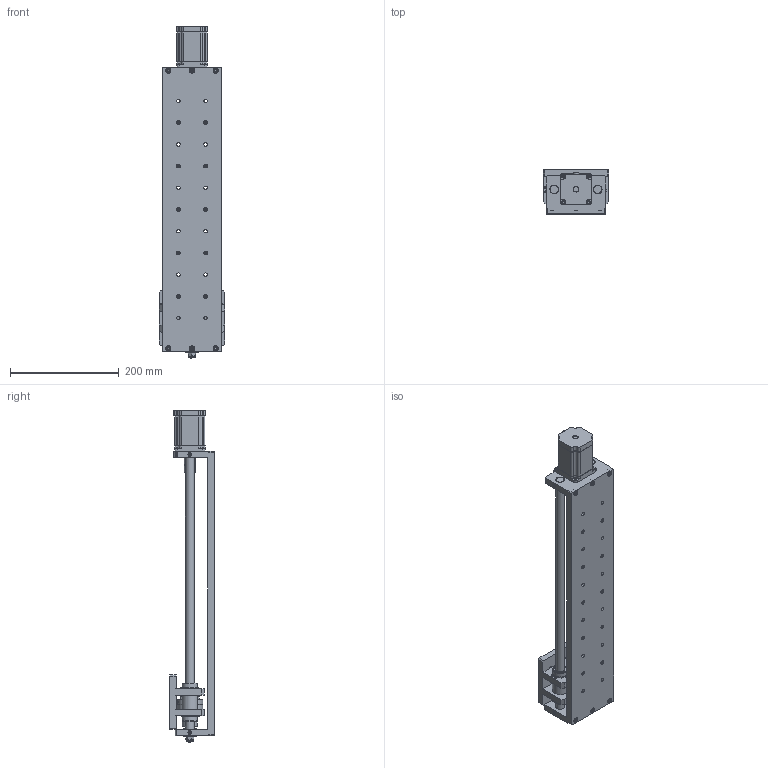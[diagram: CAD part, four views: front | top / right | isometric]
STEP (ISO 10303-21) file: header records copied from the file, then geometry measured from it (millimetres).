
FILE_DESCRIPTION(('STEP AP203'), '1');
FILE_NAME('PLLM-11-400 - ìîäóëü ëèíåéíîãî ïåðåìåùåíèÿ', '2022-05-04T13:02:17', (''), (''), 'ASCON STEP Converter 1.6', 'ASCON Math Kernel', '');
FILE_SCHEMA(('CONFIG_CONTROL_DESIGN'));
Length unit declared in the file: millimetre
Products named in the file (1): PLLM-11-400-000 СБ
Bounding box: 120 x 82 x 611.5 mm (x, y, z)
Volume: 1681101.1 mm3; surface area: 329285.3 mm2
Topology: 15 solids, 15 shells, 1544 faces, 3732 edges, 2357 vertices
Faces by surface type: plane 929, cylinder 260, cone 195, extrusion 134, sphere 14, torus 12
Full cylindrical faces by diameter (mm): 2 x8, 2.459 x2, 2.5 x2, 3 x2, 3.5 x2, 4 x15, 4.134 x9, 4.917 x21, 5.1 x4, 5.5 x6, 5.8 x2, 6.5 x12, 8 x4, 8.5 x14, 10 x11, 10.8 x4, 11 x4, 12 x12, 13 x1, 16 x10, 19.07 x8, 22 x3, 24 x4, 25 x2, 27 x4, 28 x7, 30 x1, 38.1 x1, 38.5 x1
Entity records: 60180 total; most frequent: CARTESIAN_POINT 13587, DIRECTION 6762, ORIENTED_EDGE 6566, EDGE_CURVE 3283, AXIS2_PLACEMENT_3D 2359, VERTEX_POINT 2283, EDGE_LOOP 2128, VECTOR 2044
